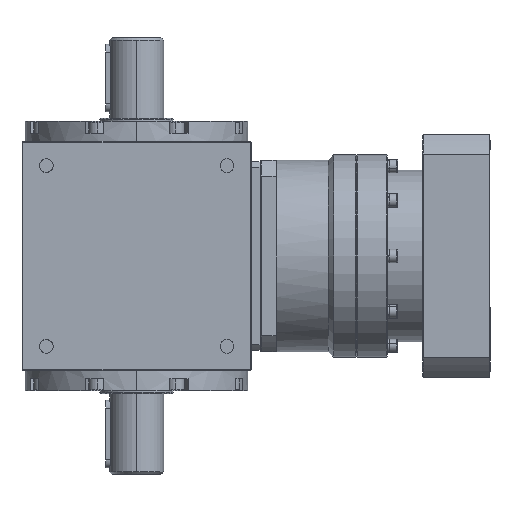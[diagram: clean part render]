
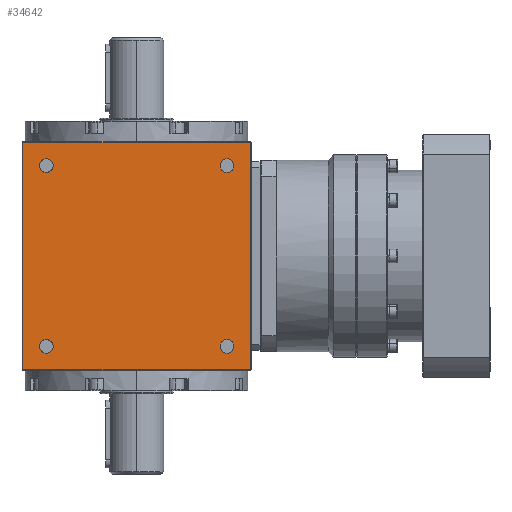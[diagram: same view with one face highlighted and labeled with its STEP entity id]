
A CAD part, left-side view. The second image highlights one B-rep face of the part: STEP entity #34642.
In plain terms, the highlighted planar face has unit normal (-1, 0, 0).
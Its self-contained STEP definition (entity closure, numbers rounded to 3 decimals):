
#92 = DIRECTION ( 'NONE',  ( 1., 0., 0. ) ) ;
#344 = CARTESIAN_POINT ( 'NONE',  ( -85., -67., -72.1 ) ) ;
#473 = VERTEX_POINT ( 'NONE', #3538 ) ;
#688 = AXIS2_PLACEMENT_3D ( 'NONE', #16298, #37855, #19521 ) ;
#715 = DIRECTION ( 'NONE',  ( 1., 0., 0. ) ) ;
#745 = ORIENTED_EDGE ( 'NONE', *, *, #38408, .T. ) ;
#1286 = EDGE_CURVE ( 'NONE', #31861, #7960, #15876, .T. ) ;
#1608 = CARTESIAN_POINT ( 'NONE',  ( -85., 85., 84.5 ) ) ;
#1836 = ORIENTED_EDGE ( 'NONE', *, *, #2727, .T. ) ;
#2016 = LINE ( 'NONE', #1608, #34057 ) ;
#2542 = CARTESIAN_POINT ( 'NONE',  ( -85., 67., -61.9 ) ) ;
#2727 = EDGE_CURVE ( 'NONE', #36939, #32318, #26301, .T. ) ;
#3144 = CARTESIAN_POINT ( 'NONE',  ( -85., -67., -67. ) ) ;
#3538 = CARTESIAN_POINT ( 'NONE',  ( -85., 67., 72.1 ) ) ;
#3820 = VECTOR ( 'NONE', #9105, 1000. ) ;
#3987 = DIRECTION ( 'NONE',  ( 0., 0., 1. ) ) ;
#4004 = DIRECTION ( 'NONE',  ( 0., -1., 0. ) ) ;
#4386 = DIRECTION ( 'NONE',  ( 1., 0., 0. ) ) ;
#4392 = DIRECTION ( 'NONE',  ( 0., 0., 1. ) ) ;
#4467 = DIRECTION ( 'NONE',  ( 1., 0., 0. ) ) ;
#4656 = VERTEX_POINT ( 'NONE', #26249 ) ;
#5232 = VERTEX_POINT ( 'NONE', #9394 ) ;
#6019 = CARTESIAN_POINT ( 'NONE',  ( -85., -67., -61.9 ) ) ;
#6114 = LINE ( 'NONE', #27106, #23915 ) ;
#6225 = EDGE_CURVE ( 'NONE', #32318, #36939, #35818, .T. ) ;
#6983 = AXIS2_PLACEMENT_3D ( 'NONE', #3144, #715, #24888 ) ;
#7001 = LINE ( 'NONE', #27423, #3820 ) ;
#7430 = CARTESIAN_POINT ( 'NONE',  ( -85., -84.5, -84.5 ) ) ;
#7960 = VERTEX_POINT ( 'NONE', #2542 ) ;
#8046 = PLANE ( 'NONE',  #19371 ) ;
#8153 = AXIS2_PLACEMENT_3D ( 'NONE', #10636, #4386, #3987 ) ;
#8253 = FACE_BOUND ( 'NONE', #29326, .T. ) ;
#8287 = CARTESIAN_POINT ( 'NONE',  ( -85., 67., -72.1 ) ) ;
#8509 = EDGE_CURVE ( 'NONE', #473, #4656, #8601, .T. ) ;
#8601 = CIRCLE ( 'NONE', #13825, 5.1 ) ;
#9105 = DIRECTION ( 'NONE',  ( 0., 0., -1. ) ) ;
#9394 = CARTESIAN_POINT ( 'NONE',  ( -85., -67., 61.9 ) ) ;
#9593 = CIRCLE ( 'NONE', #19232, 5.1 ) ;
#9628 = EDGE_LOOP ( 'NONE', ( #27008, #745, #31943, #25816 ) ) ;
#10174 = ORIENTED_EDGE ( 'NONE', *, *, #26228, .T. ) ;
#10636 = CARTESIAN_POINT ( 'NONE',  ( -85., 67., -67. ) ) ;
#11680 = ORIENTED_EDGE ( 'NONE', *, *, #31760, .T. ) ;
#13693 = DIRECTION ( 'NONE',  ( 0., 1., 0. ) ) ;
#13825 = AXIS2_PLACEMENT_3D ( 'NONE', #34125, #92, #36932 ) ;
#13837 = EDGE_CURVE ( 'NONE', #5232, #26009, #14017, .T. ) ;
#13869 = CARTESIAN_POINT ( 'NONE',  ( -85., -67., -67. ) ) ;
#14017 = CIRCLE ( 'NONE', #39104, 5.1 ) ;
#14419 = CIRCLE ( 'NONE', #38226, 5.1 ) ;
#14466 = DIRECTION ( 'NONE',  ( -1., 0., 0. ) ) ;
#15876 = CIRCLE ( 'NONE', #8153, 5.1 ) ;
#16298 = CARTESIAN_POINT ( 'NONE',  ( -85., 67., 67. ) ) ;
#16300 = EDGE_LOOP ( 'NONE', ( #11680, #35638 ) ) ;
#16577 = VECTOR ( 'NONE', #4004, 1000. ) ;
#16585 = EDGE_LOOP ( 'NONE', ( #1836, #17180 ) ) ;
#16681 = ORIENTED_EDGE ( 'NONE', *, *, #1286, .T. ) ;
#16763 = VERTEX_POINT ( 'NONE', #35163 ) ;
#17180 = ORIENTED_EDGE ( 'NONE', *, *, #6225, .T. ) ;
#17679 = FACE_OUTER_BOUND ( 'NONE', #9628, .T. ) ;
#19232 = AXIS2_PLACEMENT_3D ( 'NONE', #22236, #4467, #29056 ) ;
#19303 = CARTESIAN_POINT ( 'NONE',  ( -85., -67., 67. ) ) ;
#19316 = CARTESIAN_POINT ( 'NONE',  ( -85., 85., -84.5 ) ) ;
#19371 = AXIS2_PLACEMENT_3D ( 'NONE', #36222, #14466, #26410 ) ;
#19521 = DIRECTION ( 'NONE',  ( 0., 0., 1. ) ) ;
#20271 = DIRECTION ( 'NONE',  ( 0., 0., 1. ) ) ;
#21688 = DIRECTION ( 'NONE',  ( 1., 0., 0. ) ) ;
#22236 = CARTESIAN_POINT ( 'NONE',  ( -85., -67., 67. ) ) ;
#23915 = VECTOR ( 'NONE', #20271, 1000. ) ;
#23971 = FACE_BOUND ( 'NONE', #16300, .T. ) ;
#24518 = CIRCLE ( 'NONE', #688, 5.1 ) ;
#24667 = VERTEX_POINT ( 'NONE', #7430 ) ;
#24888 = DIRECTION ( 'NONE',  ( 0., 0., 1. ) ) ;
#25228 = CARTESIAN_POINT ( 'NONE',  ( -85., -67., 72.1 ) ) ;
#25816 = ORIENTED_EDGE ( 'NONE', *, *, #30906, .T. ) ;
#25933 = VERTEX_POINT ( 'NONE', #37093 ) ;
#26009 = VERTEX_POINT ( 'NONE', #25228 ) ;
#26153 = DIRECTION ( 'NONE',  ( 1., 0., 0. ) ) ;
#26228 = EDGE_CURVE ( 'NONE', #7960, #31861, #14419, .T. ) ;
#26249 = CARTESIAN_POINT ( 'NONE',  ( -85., 67., 61.9 ) ) ;
#26301 = CIRCLE ( 'NONE', #6983, 5.1 ) ;
#26410 = DIRECTION ( 'NONE',  ( 0., -1., 0. ) ) ;
#26779 = FACE_BOUND ( 'NONE', #38872, .T. ) ;
#26820 = AXIS2_PLACEMENT_3D ( 'NONE', #13869, #35445, #29020 ) ;
#27008 = ORIENTED_EDGE ( 'NONE', *, *, #35024, .T. ) ;
#27106 = CARTESIAN_POINT ( 'NONE',  ( -85., -84.5, -85. ) ) ;
#27423 = CARTESIAN_POINT ( 'NONE',  ( -85., 84.5, -85. ) ) ;
#27775 = DIRECTION ( 'NONE',  ( 0., 0., 1. ) ) ;
#28146 = CARTESIAN_POINT ( 'NONE',  ( -85., 67., -67. ) ) ;
#29020 = DIRECTION ( 'NONE',  ( 0., 0., 1. ) ) ;
#29056 = DIRECTION ( 'NONE',  ( 0., 0., 1. ) ) ;
#29326 = EDGE_LOOP ( 'NONE', ( #36914, #38227 ) ) ;
#30232 = CARTESIAN_POINT ( 'NONE',  ( -85., 84.5, 84.5 ) ) ;
#30687 = VERTEX_POINT ( 'NONE', #30232 ) ;
#30906 = EDGE_CURVE ( 'NONE', #16763, #24667, #37623, .T. ) ;
#31760 = EDGE_CURVE ( 'NONE', #26009, #5232, #9593, .T. ) ;
#31861 = VERTEX_POINT ( 'NONE', #8287 ) ;
#31943 = ORIENTED_EDGE ( 'NONE', *, *, #33187, .T. ) ;
#32318 = VERTEX_POINT ( 'NONE', #344 ) ;
#32835 = FACE_BOUND ( 'NONE', #16585, .T. ) ;
#33187 = EDGE_CURVE ( 'NONE', #30687, #16763, #7001, .T. ) ;
#34057 = VECTOR ( 'NONE', #13693, 1000. ) ;
#34125 = CARTESIAN_POINT ( 'NONE',  ( -85., 67., 67. ) ) ;
#34509 = EDGE_CURVE ( 'NONE', #4656, #473, #24518, .T. ) ;
#34642 = ADVANCED_FACE ( 'NONE', ( #17679, #23971, #26779, #32835, #8253 ), #8046, .T. ) ;
#35024 = EDGE_CURVE ( 'NONE', #24667, #25933, #6114, .T. ) ;
#35163 = CARTESIAN_POINT ( 'NONE',  ( -85., 84.5, -84.5 ) ) ;
#35445 = DIRECTION ( 'NONE',  ( 1., 0., 0. ) ) ;
#35638 = ORIENTED_EDGE ( 'NONE', *, *, #13837, .T. ) ;
#35818 = CIRCLE ( 'NONE', #26820, 5.1 ) ;
#36222 = CARTESIAN_POINT ( 'NONE',  ( -85., 85., -85. ) ) ;
#36914 = ORIENTED_EDGE ( 'NONE', *, *, #8509, .T. ) ;
#36932 = DIRECTION ( 'NONE',  ( 0., 0., 1. ) ) ;
#36939 = VERTEX_POINT ( 'NONE', #6019 ) ;
#37093 = CARTESIAN_POINT ( 'NONE',  ( -85., -84.5, 84.5 ) ) ;
#37623 = LINE ( 'NONE', #19316, #16577 ) ;
#37855 = DIRECTION ( 'NONE',  ( 1., 0., 0. ) ) ;
#38226 = AXIS2_PLACEMENT_3D ( 'NONE', #28146, #21688, #27775 ) ;
#38227 = ORIENTED_EDGE ( 'NONE', *, *, #34509, .T. ) ;
#38408 = EDGE_CURVE ( 'NONE', #25933, #30687, #2016, .T. ) ;
#38872 = EDGE_LOOP ( 'NONE', ( #10174, #16681 ) ) ;
#39104 = AXIS2_PLACEMENT_3D ( 'NONE', #19303, #26153, #4392 ) ;
